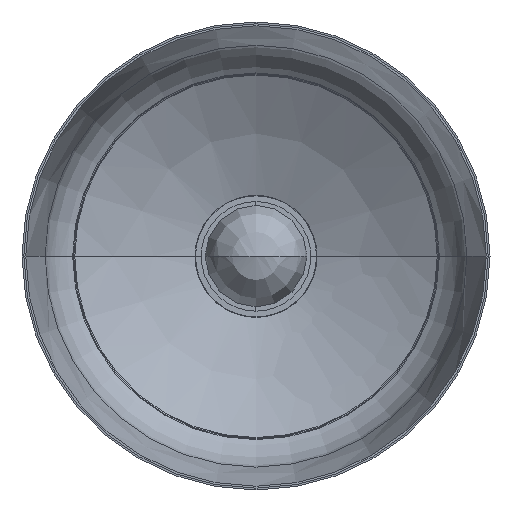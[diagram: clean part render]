
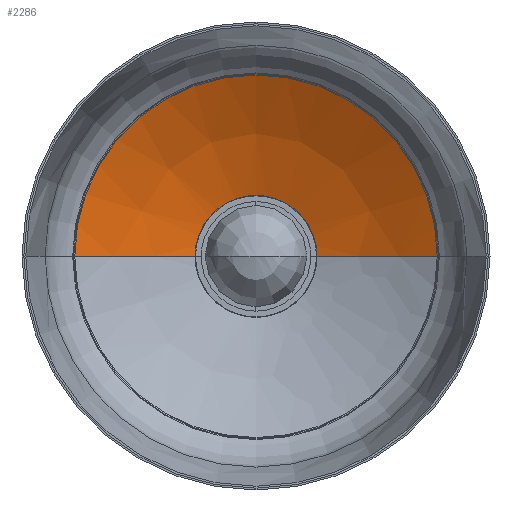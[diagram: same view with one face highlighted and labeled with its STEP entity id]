
A CAD part, top view. The second image highlights one B-rep face of the part: STEP entity #2286.
In plain terms, the highlighted free-form (B-spline) face has degree [2, 2] with [3, 5] control points.
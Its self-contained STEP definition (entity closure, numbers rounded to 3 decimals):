
#27=(
BOUNDED_CURVE()
B_SPLINE_CURVE(2,(#5554,#5555,#5556),.UNSPECIFIED.,.F.,.F.)
B_SPLINE_CURVE_WITH_KNOTS((3,3),(-1.299,-1.006),
 .UNSPECIFIED.)
CURVE()
GEOMETRIC_REPRESENTATION_ITEM()
RATIONAL_B_SPLINE_CURVE((1.,0.989,1.))
REPRESENTATION_ITEM('')
);
#28=(
BOUNDED_CURVE()
B_SPLINE_CURVE(2,(#5559,#5560,#5561),.UNSPECIFIED.,.F.,.F.)
B_SPLINE_CURVE_WITH_KNOTS((3,3),(1.006,1.299),
 .UNSPECIFIED.)
CURVE()
GEOMETRIC_REPRESENTATION_ITEM()
RATIONAL_B_SPLINE_CURVE((1.,0.989,1.))
REPRESENTATION_ITEM('')
);
#43=(
BOUNDED_SURFACE()
B_SPLINE_SURFACE(2,2,((#5538,#5539,#5540,#5541,#5542),(#5543,#5544,#5545,
#5546,#5547),(#5548,#5549,#5550,#5551,#5552)),.UNSPECIFIED.,.F.,.F.,.F.)
B_SPLINE_SURFACE_WITH_KNOTS((3,3),(3,2,3),(1.006,1.299),
(-3.142,-1.571,0.),
 .UNSPECIFIED.)
GEOMETRIC_REPRESENTATION_ITEM()
RATIONAL_B_SPLINE_SURFACE(((1.,0.707,1.,0.707,1.),
(0.989,0.7,0.989,0.7,0.989),
(1.,0.707,1.,0.707,1.)))
REPRESENTATION_ITEM('')
SURFACE()
);
#268=FACE_OUTER_BOUND('',#430,.T.);
#430=EDGE_LOOP('',(#1908,#1909,#1910,#1911));
#586=CIRCLE('',#2532,97.541);
#588=CIRCLE('',#2535,32.566);
#1092=VERTEX_POINT('',#5387);
#1093=VERTEX_POINT('',#5461);
#1094=VERTEX_POINT('',#5553);
#1095=VERTEX_POINT('',#5557);
#1363=EDGE_CURVE('',#1093,#1092,#586,.T.);
#1366=EDGE_CURVE('',#1094,#1092,#27,.T.);
#1367=EDGE_CURVE('',#1095,#1094,#588,.T.);
#1368=EDGE_CURVE('',#1093,#1095,#28,.T.);
#1908=ORIENTED_EDGE('',*,*,#1363,.T.);
#1909=ORIENTED_EDGE('',*,*,#1366,.F.);
#1910=ORIENTED_EDGE('',*,*,#1367,.F.);
#1911=ORIENTED_EDGE('',*,*,#1368,.F.);
#2286=ADVANCED_FACE('',(#268),#43,.T.);
#2532=AXIS2_PLACEMENT_3D('',#5462,#3094,#3095);
#2535=AXIS2_PLACEMENT_3D('',#5558,#3100,#3101);
#3094=DIRECTION('center_axis',(0.,0.,
1.));
#3095=DIRECTION('ref_axis',(1.,0.,0.));
#3100=DIRECTION('center_axis',(0.,0.,
1.));
#3101=DIRECTION('ref_axis',(1.,0.,0.));
#5387=CARTESIAN_POINT('',(-97.541,0.,837.514));
#5461=CARTESIAN_POINT('',(97.541,0.,837.514));
#5462=CARTESIAN_POINT('Origin',(0.,0.,
837.514));
#5538=CARTESIAN_POINT('Ctrl Pts',(-97.541,0.,
837.514));
#5539=CARTESIAN_POINT('Ctrl Pts',(-97.541,97.541,837.514));
#5540=CARTESIAN_POINT('Ctrl Pts',(0.,97.541,
837.514));
#5541=CARTESIAN_POINT('Ctrl Pts',(97.541,97.541,837.514));
#5542=CARTESIAN_POINT('Ctrl Pts',(97.541,0.,
837.514));
#5543=CARTESIAN_POINT('Ctrl Pts',(-67.179,0.,
818.296));
#5544=CARTESIAN_POINT('Ctrl Pts',(-67.179,67.179,818.296));
#5545=CARTESIAN_POINT('Ctrl Pts',(0.,67.179,
818.296));
#5546=CARTESIAN_POINT('Ctrl Pts',(67.179,67.179,818.296));
#5547=CARTESIAN_POINT('Ctrl Pts',(67.179,0.,
818.296));
#5548=CARTESIAN_POINT('Ctrl Pts',(-32.566,0.,
808.642));
#5549=CARTESIAN_POINT('Ctrl Pts',(-32.566,32.566,808.642));
#5550=CARTESIAN_POINT('Ctrl Pts',(0.,32.566,
808.642));
#5551=CARTESIAN_POINT('Ctrl Pts',(32.566,32.566,808.642));
#5552=CARTESIAN_POINT('Ctrl Pts',(32.566,0.,
808.642));
#5553=CARTESIAN_POINT('',(-32.566,0.,808.642));
#5554=CARTESIAN_POINT('Ctrl Pts',(-32.566,0.,
808.642));
#5555=CARTESIAN_POINT('Ctrl Pts',(-67.179,0.,
818.296));
#5556=CARTESIAN_POINT('Ctrl Pts',(-97.541,0.,
837.514));
#5557=CARTESIAN_POINT('',(32.566,0.,808.642));
#5558=CARTESIAN_POINT('Origin',(0.,0.,
808.642));
#5559=CARTESIAN_POINT('Ctrl Pts',(97.541,0.,
837.514));
#5560=CARTESIAN_POINT('Ctrl Pts',(67.179,0.,
818.296));
#5561=CARTESIAN_POINT('Ctrl Pts',(32.566,0.,
808.642));
